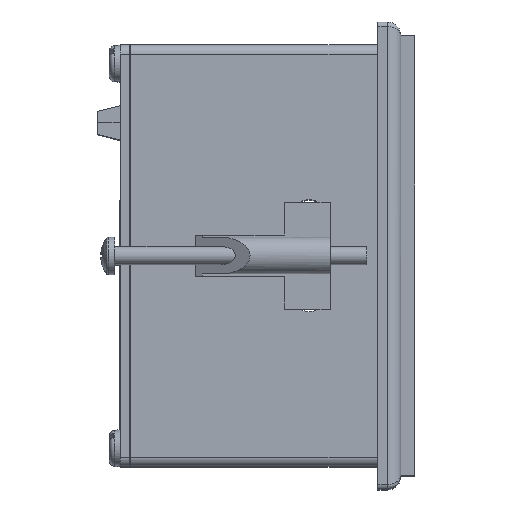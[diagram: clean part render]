
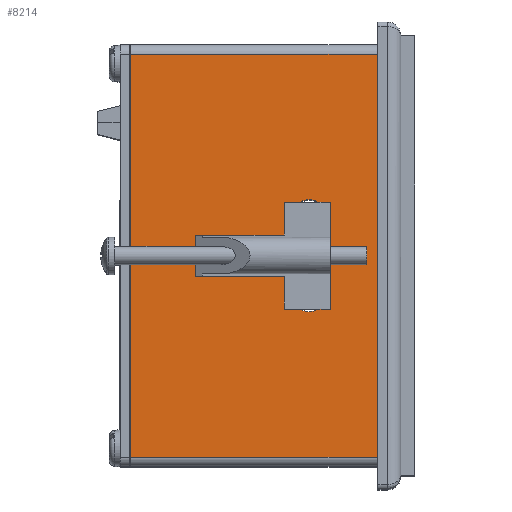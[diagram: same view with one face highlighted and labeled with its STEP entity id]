
A CAD part, top view. The second image highlights one B-rep face of the part: STEP entity #8214.
In plain terms, the highlighted planar face has unit normal (0, 0, 1) as drawn and (-1, 0, 0) by its records, which use the part's own axes.
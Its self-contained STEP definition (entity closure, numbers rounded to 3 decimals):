
#277 = CARTESIAN_POINT ( 'NONE',  ( 0., 0., 56. ) ) ;
#1061 = VERTEX_POINT ( 'NONE', #158099 ) ;
#3301 = VERTEX_POINT ( 'NONE', #112607 ) ;
#6897 = EDGE_CURVE ( 'NONE', #3301, #159443, #80890, .T. ) ;
#6984 = CARTESIAN_POINT ( 'NONE',  ( 0., 58.25, 39. ) ) ;
#8214 = ADVANCED_FACE ( 'NONE', ( #11657, #93091, #67474 ), #108134, .F. ) ;
#11657 = FACE_OUTER_BOUND ( 'NONE', #147495, .T. ) ;
#13321 = ORIENTED_EDGE ( 'NONE', *, *, #79995, .T. ) ;
#13836 = DIRECTION ( 'NONE',  ( -1., 0., 0. ) ) ;
#16979 = EDGE_CURVE ( 'NONE', #135942, #134092, #25536, .T. ) ;
#20541 = VECTOR ( 'NONE', #40061, 1000. ) ;
#24947 = DIRECTION ( 'NONE',  ( 1., 0., 0. ) ) ;
#25536 = CIRCLE ( 'NONE', #124402, 3.25 ) ;
#26268 = DIRECTION ( 'NONE',  ( 0., -1., 0. ) ) ;
#30593 = DIRECTION ( 'NONE',  ( 0., 0., 1. ) ) ;
#31393 = EDGE_CURVE ( 'NONE', #170835, #159443, #127809, .T. ) ;
#31860 = ORIENTED_EDGE ( 'NONE', *, *, #171485, .F. ) ;
#35915 = DIRECTION ( 'NONE',  ( 0., -1., 0. ) ) ;
#38249 = DIRECTION ( 'NONE',  ( 0., 1., 0. ) ) ;
#40061 = DIRECTION ( 'NONE',  ( 0., 0., -1. ) ) ;
#50130 = LINE ( 'NONE', #129648, #103596 ) ;
#52529 = LINE ( 'NONE', #150581, #20541 ) ;
#56157 = VECTOR ( 'NONE', #76824, 1000. ) ;
#60078 = DIRECTION ( 'NONE',  ( 0., -1., 0. ) ) ;
#60264 = VECTOR ( 'NONE', #30593, 1000. ) ;
#66432 = DIRECTION ( 'NONE',  ( -1., 0., 0. ) ) ;
#67474 = FACE_BOUND ( 'NONE', #108332, .T. ) ;
#67558 = EDGE_CURVE ( 'NONE', #103811, #170835, #50130, .T. ) ;
#68573 = CIRCLE ( 'NONE', #167427, 3.25 ) ;
#74019 = ORIENTED_EDGE ( 'NONE', *, *, #144104, .F. ) ;
#74188 = DIRECTION ( 'NONE',  ( 0., -1., 0. ) ) ;
#75090 = DIRECTION ( 'NONE',  ( -1., 0., 0. ) ) ;
#75575 = CIRCLE ( 'NONE', #129219, 3.25 ) ;
#76824 = DIRECTION ( 'NONE',  ( 0., -1., 0. ) ) ;
#77917 = CARTESIAN_POINT ( 'NONE',  ( 0., 55., 39. ) ) ;
#79995 = EDGE_CURVE ( 'NONE', #3301, #103811, #52529, .T. ) ;
#80890 = LINE ( 'NONE', #277, #56157 ) ;
#81998 = CARTESIAN_POINT ( 'NONE',  ( 0., 51.75, 39. ) ) ;
#91188 = DIRECTION ( 'NONE',  ( 0., -1., 0. ) ) ;
#92899 = AXIS2_PLACEMENT_3D ( 'NONE', #150952, #13836, #26268 ) ;
#93091 = FACE_BOUND ( 'NONE', #114887, .T. ) ;
#103596 = VECTOR ( 'NONE', #35915, 1000. ) ;
#103811 = VERTEX_POINT ( 'NONE', #133606 ) ;
#108134 = PLANE ( 'NONE',  #124534 ) ;
#108332 = EDGE_LOOP ( 'NONE', ( #74019, #108443 ) ) ;
#108443 = ORIENTED_EDGE ( 'NONE', *, *, #16979, .F. ) ;
#112607 = CARTESIAN_POINT ( 'NONE',  ( 0., 90., 56. ) ) ;
#114362 = EDGE_CURVE ( 'NONE', #128873, #1061, #169186, .T. ) ;
#114887 = EDGE_LOOP ( 'NONE', ( #31860, #132015 ) ) ;
#121379 = CARTESIAN_POINT ( 'NONE',  ( 0., 0., 56. ) ) ;
#124402 = AXIS2_PLACEMENT_3D ( 'NONE', #156482, #75090, #60078 ) ;
#124534 = AXIS2_PLACEMENT_3D ( 'NONE', #121379, #24947, #38249 ) ;
#125845 = ORIENTED_EDGE ( 'NONE', *, *, #31393, .T. ) ;
#127809 = LINE ( 'NONE', #151819, #60264 ) ;
#128873 = VERTEX_POINT ( 'NONE', #170110 ) ;
#129219 = AXIS2_PLACEMENT_3D ( 'NONE', #143122, #168861, #74188 ) ;
#129648 = CARTESIAN_POINT ( 'NONE',  ( 0., 0., 0. ) ) ;
#132015 = ORIENTED_EDGE ( 'NONE', *, *, #114362, .F. ) ;
#133606 = CARTESIAN_POINT ( 'NONE',  ( 0., 90., 0. ) ) ;
#134092 = VERTEX_POINT ( 'NONE', #81998 ) ;
#135942 = VERTEX_POINT ( 'NONE', #6984 ) ;
#139149 = CARTESIAN_POINT ( 'NONE',  ( 0., 2., 0. ) ) ;
#143122 = CARTESIAN_POINT ( 'NONE',  ( 0., 37., 39. ) ) ;
#144104 = EDGE_CURVE ( 'NONE', #134092, #135942, #68573, .T. ) ;
#147002 = CARTESIAN_POINT ( 'NONE',  ( 0., 2., 56. ) ) ;
#147495 = EDGE_LOOP ( 'NONE', ( #155272, #125845, #161962, #13321 ) ) ;
#150581 = CARTESIAN_POINT ( 'NONE',  ( 0., 90., 56. ) ) ;
#150952 = CARTESIAN_POINT ( 'NONE',  ( 0., 37., 39. ) ) ;
#151819 = CARTESIAN_POINT ( 'NONE',  ( 0., 2., 56. ) ) ;
#155272 = ORIENTED_EDGE ( 'NONE', *, *, #67558, .T. ) ;
#156482 = CARTESIAN_POINT ( 'NONE',  ( 0., 55., 39. ) ) ;
#158099 = CARTESIAN_POINT ( 'NONE',  ( 0., 33.75, 39. ) ) ;
#159443 = VERTEX_POINT ( 'NONE', #147002 ) ;
#161962 = ORIENTED_EDGE ( 'NONE', *, *, #6897, .F. ) ;
#167427 = AXIS2_PLACEMENT_3D ( 'NONE', #77917, #66432, #91188 ) ;
#168861 = DIRECTION ( 'NONE',  ( -1., 0., 0. ) ) ;
#169186 = CIRCLE ( 'NONE', #92899, 3.25 ) ;
#170110 = CARTESIAN_POINT ( 'NONE',  ( 0., 40.25, 39. ) ) ;
#170835 = VERTEX_POINT ( 'NONE', #139149 ) ;
#171485 = EDGE_CURVE ( 'NONE', #1061, #128873, #75575, .T. ) ;
